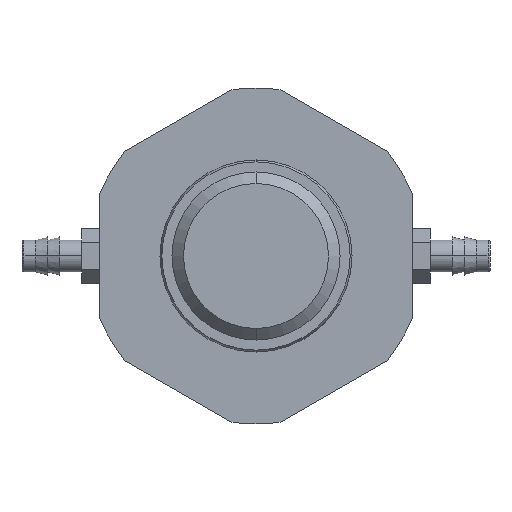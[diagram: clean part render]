
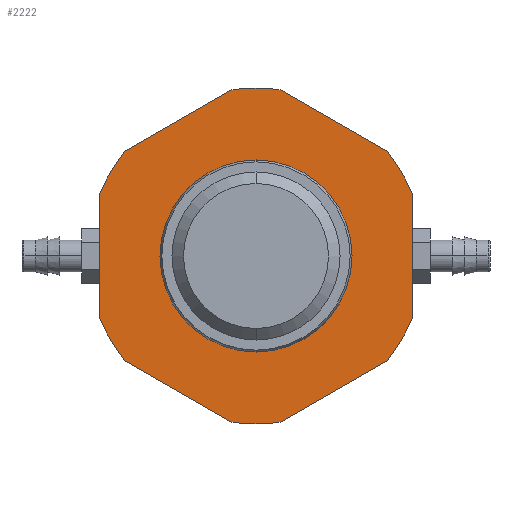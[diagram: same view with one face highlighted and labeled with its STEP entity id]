
A CAD part, left-side view. The second image highlights one B-rep face of the part: STEP entity #2222.
In plain terms, the highlighted planar face has unit normal (-1, 0, 0).
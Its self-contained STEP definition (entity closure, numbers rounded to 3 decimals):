
#1910=CARTESIAN_POINT('',(-2.875,0.,0.413));
#1911=VERTEX_POINT('',#1910);
#1927=CARTESIAN_POINT('',(-2.875,0.,-0.413));
#1928=VERTEX_POINT('',#1927);
#1935=CARTESIAN_POINT('',(-2.875,0.,0.0));
#1936=DIRECTION('',(1.0,0.0,0.0));
#1937=DIRECTION('',(0.0,0.0,1.0));
#1938=AXIS2_PLACEMENT_3D('',#1935,#1936,#1937);
#1939=CIRCLE('',#1938,0.413);
#1940=EDGE_CURVE('',#1928,#1911,#1939,.F.);
#2103=CARTESIAN_POINT('',(-2.875,0.0,0.0));
#2104=DIRECTION('',(-1.0,0.0,0.0));
#2105=DIRECTION('',(0.0,0.0,1.0));
#2106=AXIS2_PLACEMENT_3D('',#2103,#2104,#2105);
#2107=PLANE('',#2106);
#2108=CARTESIAN_POINT('',(-2.875,-0.125,-0.866));
#2109=VERTEX_POINT('',#2108);
#2110=CARTESIAN_POINT('',(-2.875,0.125,-0.866));
#2111=VERTEX_POINT('',#2110);
#2112=CARTESIAN_POINT('',(-2.875,0.0,0.0));
#2113=DIRECTION('',(1.0,0.0,0.0));
#2114=DIRECTION('',(0.0,0.0,-1.0));
#2115=AXIS2_PLACEMENT_3D('',#2112,#2113,#2114);
#2116=CIRCLE('',#2115,0.875);
#2117=EDGE_CURVE('',#2109,#2111,#2116,.T.);
#2118=ORIENTED_EDGE('',*,*,#2117,.F.);
#2119=CARTESIAN_POINT('',(-2.875,-0.688,-0.541));
#2120=VERTEX_POINT('',#2119);
#2121=CARTESIAN_POINT('',(-2.875,-0.688,-0.541));
#2122=DIRECTION('',(0.0,0.866,-0.5));
#2123=VECTOR('',#2122,0.65);
#2124=LINE('',#2121,#2123);
#2125=EDGE_CURVE('',#2120,#2109,#2124,.T.);
#2126=ORIENTED_EDGE('',*,*,#2125,.F.);
#2127=CARTESIAN_POINT('',(-2.875,-0.813,-0.325));
#2128=VERTEX_POINT('',#2127);
#2129=CARTESIAN_POINT('',(-2.875,0.,0.0));
#2130=DIRECTION('',(1.0,0.0,0.0));
#2131=DIRECTION('',(0.0,-0.866,-0.5));
#2132=AXIS2_PLACEMENT_3D('',#2129,#2130,#2131);
#2133=CIRCLE('',#2132,0.875);
#2134=EDGE_CURVE('',#2128,#2120,#2133,.T.);
#2135=ORIENTED_EDGE('',*,*,#2134,.F.);
#2136=CARTESIAN_POINT('',(-2.875,-0.813,0.325));
#2137=VERTEX_POINT('',#2136);
#2138=CARTESIAN_POINT('',(-2.875,-0.813,0.325));
#2139=DIRECTION('',(0.0,0.0,-1.0));
#2140=VECTOR('',#2139,0.65);
#2141=LINE('',#2138,#2140);
#2142=EDGE_CURVE('',#2137,#2128,#2141,.T.);
#2143=ORIENTED_EDGE('',*,*,#2142,.F.);
#2144=CARTESIAN_POINT('',(-2.875,-0.688,0.541));
#2145=VERTEX_POINT('',#2144);
#2146=CARTESIAN_POINT('',(-2.875,0.,0.0));
#2147=DIRECTION('',(1.0,0.0,0.0));
#2148=DIRECTION('',(0.0,-0.866,0.5));
#2149=AXIS2_PLACEMENT_3D('',#2146,#2147,#2148);
#2150=CIRCLE('',#2149,0.875);
#2151=EDGE_CURVE('',#2145,#2137,#2150,.T.);
#2152=ORIENTED_EDGE('',*,*,#2151,.F.);
#2153=CARTESIAN_POINT('',(-2.875,-0.125,0.866));
#2154=VERTEX_POINT('',#2153);
#2155=CARTESIAN_POINT('',(-2.875,-0.125,0.866));
#2156=DIRECTION('',(0.0,-0.866,-0.5));
#2157=VECTOR('',#2156,0.65);
#2158=LINE('',#2155,#2157);
#2159=EDGE_CURVE('',#2154,#2145,#2158,.T.);
#2160=ORIENTED_EDGE('',*,*,#2159,.F.);
#2161=CARTESIAN_POINT('',(-2.875,0.125,0.866));
#2162=VERTEX_POINT('',#2161);
#2163=CARTESIAN_POINT('',(-2.875,0.0,0.0));
#2164=DIRECTION('',(1.0,0.0,0.0));
#2165=DIRECTION('',(0.0,0.0,1.0));
#2166=AXIS2_PLACEMENT_3D('',#2163,#2164,#2165);
#2167=CIRCLE('',#2166,0.875);
#2168=EDGE_CURVE('',#2162,#2154,#2167,.T.);
#2169=ORIENTED_EDGE('',*,*,#2168,.F.);
#2170=CARTESIAN_POINT('',(-2.875,0.688,0.541));
#2171=VERTEX_POINT('',#2170);
#2172=CARTESIAN_POINT('',(-2.875,0.688,0.541));
#2173=DIRECTION('',(0.0,-0.866,0.5));
#2174=VECTOR('',#2173,0.65);
#2175=LINE('',#2172,#2174);
#2176=EDGE_CURVE('',#2171,#2162,#2175,.T.);
#2177=ORIENTED_EDGE('',*,*,#2176,.F.);
#2178=CARTESIAN_POINT('',(-2.875,0.813,0.325));
#2179=VERTEX_POINT('',#2178);
#2180=CARTESIAN_POINT('',(-2.875,0.0,0.0));
#2181=DIRECTION('',(1.0,0.0,0.0));
#2182=DIRECTION('',(0.0,0.866,0.5));
#2183=AXIS2_PLACEMENT_3D('',#2180,#2181,#2182);
#2184=CIRCLE('',#2183,0.875);
#2185=EDGE_CURVE('',#2179,#2171,#2184,.T.);
#2186=ORIENTED_EDGE('',*,*,#2185,.F.);
#2187=CARTESIAN_POINT('',(-2.875,0.813,-0.325));
#2188=VERTEX_POINT('',#2187);
#2189=CARTESIAN_POINT('',(-2.875,0.813,-0.325));
#2190=DIRECTION('',(0.0,0.0,1.0));
#2191=VECTOR('',#2190,0.65);
#2192=LINE('',#2189,#2191);
#2193=EDGE_CURVE('',#2188,#2179,#2192,.T.);
#2194=ORIENTED_EDGE('',*,*,#2193,.F.);
#2195=CARTESIAN_POINT('',(-2.875,0.687,-0.541));
#2196=VERTEX_POINT('',#2195);
#2197=CARTESIAN_POINT('',(-2.875,0.,0.0));
#2198=DIRECTION('',(1.0,0.0,0.0));
#2199=DIRECTION('',(0.0,0.866,-0.5));
#2200=AXIS2_PLACEMENT_3D('',#2197,#2198,#2199);
#2201=CIRCLE('',#2200,0.875);
#2202=EDGE_CURVE('',#2196,#2188,#2201,.T.);
#2203=ORIENTED_EDGE('',*,*,#2202,.F.);
#2204=CARTESIAN_POINT('',(-2.875,0.125,-0.866));
#2205=DIRECTION('',(0.0,0.866,0.5));
#2206=VECTOR('',#2205,0.65);
#2207=LINE('',#2204,#2206);
#2208=EDGE_CURVE('',#2111,#2196,#2207,.T.);
#2209=ORIENTED_EDGE('',*,*,#2208,.F.);
#2210=EDGE_LOOP('',(#2118,#2126,#2135,#2143,#2152,#2160,#2169,#2177,#2186,#2194,#2203,#2209));
#2211=FACE_OUTER_BOUND('',#2210,.T.);
#2212=CARTESIAN_POINT('',(-2.875,0.,0.0));
#2213=DIRECTION('',(1.0,0.0,0.0));
#2214=DIRECTION('',(0.0,0.0,1.0));
#2215=AXIS2_PLACEMENT_3D('',#2212,#2213,#2214);
#2216=CIRCLE('',#2215,0.413);
#2217=EDGE_CURVE('',#1911,#1928,#2216,.F.);
#2218=ORIENTED_EDGE('',*,*,#2217,.F.);
#2219=ORIENTED_EDGE('',*,*,#1940,.F.);
#2220=EDGE_LOOP('',(#2218,#2219));
#2221=FACE_BOUND('',#2220,.T.);
#2222=ADVANCED_FACE('',(#2211,#2221),#2107,.T.);
